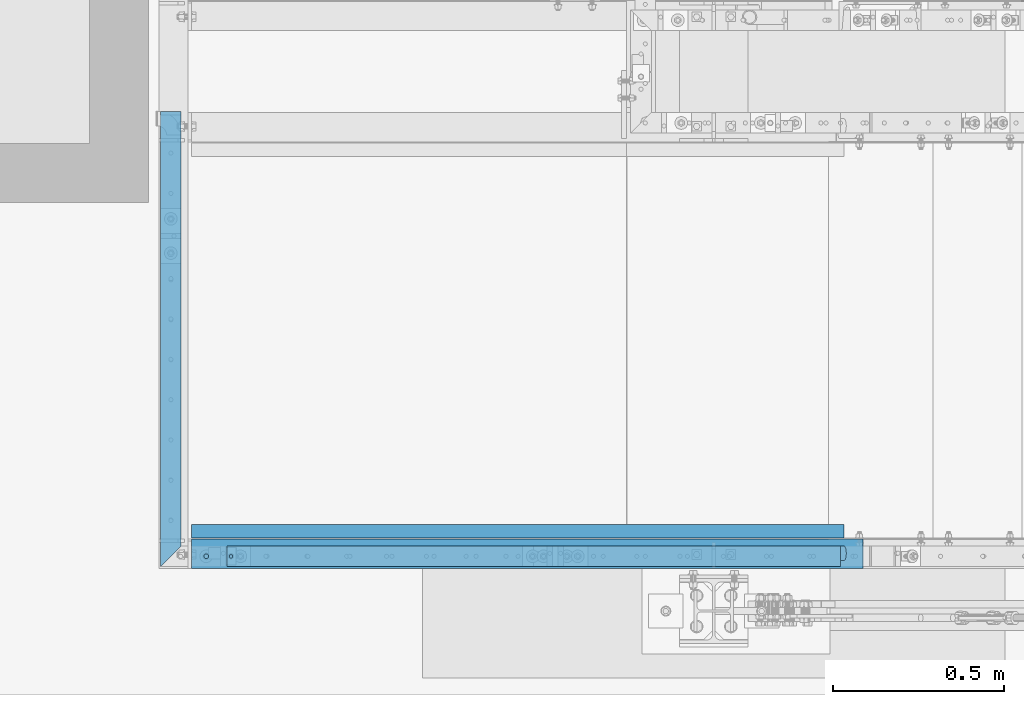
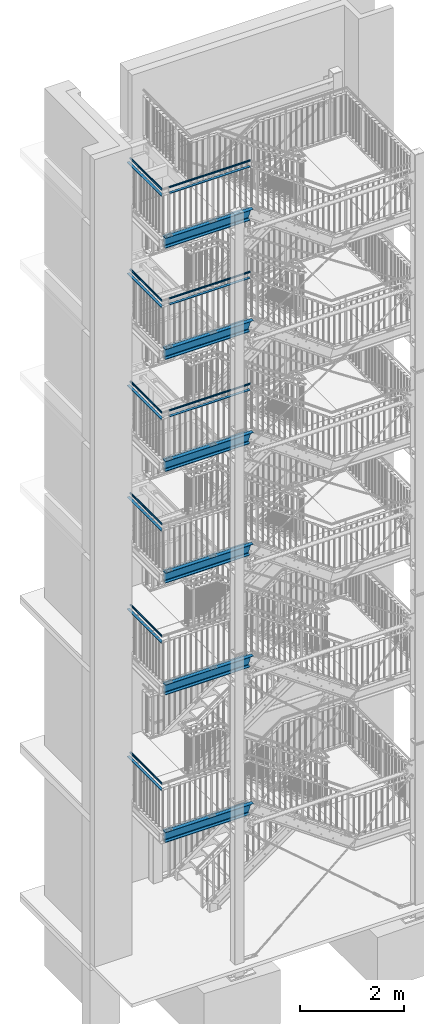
# One storey, part 112 of 821: 30 beams, 39 openings.
"""IFC2X3 building model written with IfcOpenShell, lengths in millimetres."""

from ifc_helpers import new_model, entity, si_unit, converted_unit, frame, frame_2d, origin, origin_with_axes, origin_2d, origin_2d_with_axis, place, context, project, spatial, rectangle, circle, hollow_circle, l_section, u_section, extrude, clip, halfspace, material, element, save


model = new_model("IFC2X3")

# Units and contexts
model_context = context("Model", 3, precision=1e-09, world=origin_with_axes())
ifc_project = project(units=[si_unit("LENGTHUNIT", "METRE", prefix="MILLI"), si_unit("AREAUNIT", "SQUARE_METRE"), si_unit("VOLUMEUNIT", "CUBIC_METRE"), converted_unit("PLANEANGLEUNIT", "DEGREE", entity("IfcPlaneAngleMeasure", 0.01745329), si_unit("PLANEANGLEUNIT", "RADIAN"), dimensions=[0, 0, 0, 0, 0, 0, 0])], contexts=[model_context])

# Site, building, storey
site_placement = place(None, origin_with_axes())
site = spatial("IfcSite", under=ifc_project, at=site_placement, Name="Cnopf'sche Kinderklinik", CompositionType="ELEMENT")
building_placement = place(site_placement, origin_with_axes())
building = spatial("IfcBuilding", under=site, at=building_placement, Name="Struktur 1", CompositionType="ELEMENT")
storey_placement = place(building_placement, origin_with_axes())
storey = spatial("IfcBuildingStorey", under=building, at=storey_placement, Name="Default Storey", CompositionType="ELEMENT", Elevation=0.0)

# Beam
ifc_material = material(Name="S235JR")
beam_1_placement = place(None, frame((5236.713402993, 4590.936971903, 12567.8), z_axis=(1.0, 0.0, 0.0), x_axis=(0.0, 0.0, -1.0)))
element("IfcBeam", 1, at=beam_1_placement, inside=storey, material=ifc_material, Name="TopLanding#3", ObjectType="TopLanding#3", context=model_context, shape_type="SweptSolid", body=[
    extrude(l_section(Depth=40.0, Width=40.0, Thickness=4.0, FilletRadius=6.0, EdgeRadius=3.0, at=frame_2d((8.8, 8.8))), origin(), (0.0, 0.0, -1.0), 1905.0),
])

# Beam, openings
beam_2_placement = place(None, frame((5552.034700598, 4554.436971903, 12459.0), z_axis=(-1.0, 0.0, 0.0), x_axis=(0.0, -1.0, 0.0)))
beam_2 = element("IfcBeam", 2, at=beam_2_placement, inside=storey, material=ifc_material, Name="Stringer", ObjectType="Stringer", context=model_context, shape_type="Clipping", body=[
    clip(clip(extrude(u_section(Depth=240.0, FlangeWidth=85.0, WebThickness=9.5, FlangeThickness=13.0, FilletRadius=13.0, EdgeRadius=6.5, FlangeSlope=4.574, at=frame_2d((20.2, 0.0))), origin(), (0.0, 0.0, 1.0), 2477.62506817), halfspace(frame((4554.436971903, -12459.0, 2220.320297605), z_axis=(0.0, 0.0, -1.0), x_axis=(-1.0, 0.0, 0.0)), True)), halfspace(frame((4554.436971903, -12818.039088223, 4441.028582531), z_axis=(0.0, 0.307506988, 0.951545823), x_axis=(1.0, 0.0, 0.0)), True)),
])
opening_1_placement = place(beam_2_placement, frame((27.7, 120.5, 2170.242154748), z_axis=(0.0, 1.0, 0.0), x_axis=(-1.0, 0.0, 0.0)))
element("IfcOpeningElement", 3, at=opening_1_placement, cuts=beam_2, ObjectType="Opening", context=model_context, shape_type="SweptSolid", body=[
    extrude(circle(Radius=7.001, at=frame_2d((0.0, 7.001), x_axis=(1.0, 0.0))), origin(), (0.0, 0.0, -1.0), 14.0),
])
opening_2_placement = place(beam_2_placement, frame((27.7, 120.5, 2070.242154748), z_axis=(0.0, 1.0, 0.0), x_axis=(-1.0, 0.0, 0.0)))
element("IfcOpeningElement", 4, at=opening_2_placement, cuts=beam_2, ObjectType="Opening", context=model_context, shape_type="SweptSolid", body=[
    extrude(circle(Radius=7.001, at=frame_2d((0.0, 7.001), x_axis=(1.0, 0.0))), origin(), (0.0, 0.0, -1.0), 14.0),
])
opening_3_placement = place(beam_2_placement, frame((27.7, 120.5, 1185.242011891), z_axis=(0.0, 1.0, 0.0), x_axis=(-1.0, 0.0, 0.0)))
element("IfcOpeningElement", 5, at=opening_3_placement, cuts=beam_2, ObjectType="Opening", context=model_context, shape_type="SweptSolid", body=[
    extrude(circle(Radius=7.001, at=frame_2d((0.0, 7.001), x_axis=(1.0, 0.0))), origin(), (0.0, 0.0, -1.0), 14.0),
])
opening_4_placement = place(beam_2_placement, frame((27.7, 120.5, 1085.242011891), z_axis=(0.0, 1.0, 0.0), x_axis=(-1.0, 0.0, 0.0)))
element("IfcOpeningElement", 6, at=opening_4_placement, cuts=beam_2, ObjectType="Opening", context=model_context, shape_type="SweptSolid", body=[
    extrude(circle(Radius=7.001, at=frame_2d((0.0, 7.001), x_axis=(1.0, 0.0))), origin(), (0.0, 0.0, -1.0), 14.0),
])
opening_5_placement = place(beam_2_placement, frame((29.701, -120.5, 645.321297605), z_axis=(0.0, -1.0, 0.0), x_axis=(1.0, 0.0, 0.0)))
element("IfcOpeningElement", 7, at=opening_5_placement, cuts=beam_2, ObjectType="Opening", context=model_context, shape_type="SweptSolid", body=[
    extrude(circle(Radius=7.001, at=frame_2d((-7.001, 0.0), x_axis=(1.0, 0.0))), origin(), (0.0, 0.0, -1.0), 14.0),
])
opening_6_placement = place(beam_2_placement, frame((29.701, -120.5, 745.321297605), z_axis=(0.0, -1.0, 0.0), x_axis=(1.0, 0.0, 0.0)))
element("IfcOpeningElement", 8, at=opening_6_placement, cuts=beam_2, ObjectType="Opening", context=model_context, shape_type="SweptSolid", body=[
    extrude(circle(Radius=7.001, at=frame_2d((-7.001, 0.0), x_axis=(1.0, 0.0))), origin(), (0.0, 0.0, -1.0), 14.0),
])

beam_3_placement = place(None, frame((5551.927134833, 4554.436971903, 15094.0), z_axis=(-1.0, 0.0, 0.0), x_axis=(0.0, -1.0, 0.0)))
beam_3 = element("IfcBeam", 9, at=beam_3_placement, inside=storey, material=ifc_material, Name="Stringer", ObjectType="Stringer", context=model_context, shape_type="Clipping", body=[
    clip(clip(extrude(u_section(Depth=240.0, FlangeWidth=85.0, WebThickness=9.5, FlangeThickness=13.0, FilletRadius=13.0, EdgeRadius=6.5, FlangeSlope=4.574, at=frame_2d((20.2, 0.0))), origin(), (0.0, 0.0, 1.0), 2477.517502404), halfspace(frame((4554.436971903, -15094.0, 2220.21273184), z_axis=(0.0, 0.0, -1.0), x_axis=(-1.0, 0.0, 0.0)), True)), halfspace(frame((4554.436971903, -15200.485604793, 5223.230411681), z_axis=(0.0, 0.308193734, 0.951323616), x_axis=(1.0, 0.0, 0.0)), True)),
])
opening_7_placement = place(beam_3_placement, frame((27.7, 120.5, 2170.134588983), z_axis=(0.0, 1.0, 0.0), x_axis=(-1.0, 0.0, 0.0)))
element("IfcOpeningElement", 10, at=opening_7_placement, cuts=beam_3, ObjectType="Opening", context=model_context, shape_type="SweptSolid", body=[
    extrude(circle(Radius=7.001, at=frame_2d((0.0, 7.001), x_axis=(1.0, 0.0))), origin(), (0.0, 0.0, -1.0), 14.0),
])
opening_8_placement = place(beam_3_placement, frame((27.7, 120.5, 2070.134588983), z_axis=(0.0, 1.0, 0.0), x_axis=(-1.0, 0.0, 0.0)))
element("IfcOpeningElement", 11, at=opening_8_placement, cuts=beam_3, ObjectType="Opening", context=model_context, shape_type="SweptSolid", body=[
    extrude(circle(Radius=7.001, at=frame_2d((0.0, 7.001), x_axis=(1.0, 0.0))), origin(), (0.0, 0.0, -1.0), 14.0),
])
opening_9_placement = place(beam_3_placement, frame((27.7, 120.5, 1185.134446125), z_axis=(0.0, 1.0, 0.0), x_axis=(-1.0, 0.0, 0.0)))
element("IfcOpeningElement", 12, at=opening_9_placement, cuts=beam_3, ObjectType="Opening", context=model_context, shape_type="SweptSolid", body=[
    extrude(circle(Radius=7.001, at=frame_2d((0.0, 7.001), x_axis=(1.0, 0.0))), origin(), (0.0, 0.0, -1.0), 14.0),
])
opening_10_placement = place(beam_3_placement, frame((27.7, 120.5, 1085.134446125), z_axis=(0.0, 1.0, 0.0), x_axis=(-1.0, 0.0, 0.0)))
element("IfcOpeningElement", 13, at=opening_10_placement, cuts=beam_3, ObjectType="Opening", context=model_context, shape_type="SweptSolid", body=[
    extrude(circle(Radius=7.001, at=frame_2d((0.0, 7.001), x_axis=(1.0, 0.0))), origin(), (0.0, 0.0, -1.0), 14.0),
])
opening_11_placement = place(beam_3_placement, frame((29.701, -120.5, 645.21373184), z_axis=(0.0, -1.0, 0.0), x_axis=(1.0, 0.0, 0.0)))
element("IfcOpeningElement", 14, at=opening_11_placement, cuts=beam_3, ObjectType="Opening", context=model_context, shape_type="SweptSolid", body=[
    extrude(circle(Radius=7.001, at=frame_2d((-7.001, 0.0), x_axis=(1.0, 0.0))), origin(), (0.0, 0.0, -1.0), 14.0),
])
opening_12_placement = place(beam_3_placement, frame((29.701, -120.5, 745.21373184), z_axis=(0.0, -1.0, 0.0), x_axis=(1.0, 0.0, 0.0)))
element("IfcOpeningElement", 15, at=opening_12_placement, cuts=beam_3, ObjectType="Opening", context=model_context, shape_type="SweptSolid", body=[
    extrude(circle(Radius=7.001, at=frame_2d((-7.001, 0.0), x_axis=(1.0, 0.0))), origin(), (0.0, 0.0, -1.0), 14.0),
])

# Beam
beam_4_placement = place(None, frame((5236.713402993, 4590.936971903, 15202.8), z_axis=(1.0, 0.0, 0.0), x_axis=(0.0, 0.0, -1.0)))
element("IfcBeam", 16, at=beam_4_placement, inside=storey, material=ifc_material, Name="TopLanding#3", ObjectType="TopLanding#3", context=model_context, shape_type="SweptSolid", body=[
    extrude(l_section(Depth=40.0, Width=40.0, Thickness=4.0, FilletRadius=6.0, EdgeRadius=3.0, at=frame_2d((8.8, 8.8))), origin(), (0.0, 0.0, -1.0), 1905.0),
])

# Beam, openings
beam_5_placement = place(None, frame((5552.129694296, 4554.436971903, 17713.999999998), z_axis=(-1.0, 0.0, 0.0), x_axis=(0.0, -1.0, 0.0)))
beam_5 = element("IfcBeam", 17, at=beam_5_placement, inside=storey, material=ifc_material, Name="Stringer", ObjectType="Stringer", context=model_context, shape_type="Clipping", body=[
    clip(clip(extrude(u_section(Depth=240.0, FlangeWidth=85.0, WebThickness=9.5, FlangeThickness=13.0, FilletRadius=13.0, EdgeRadius=6.5, FlangeSlope=4.574, at=frame_2d((20.2, 0.0))), origin(), (0.0, 0.0, 1.0), 2477.720061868), halfspace(frame((4554.436971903, -17713.999999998, 2220.415291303), z_axis=(0.0, 0.0, -1.0), x_axis=(-1.0, 0.0, 0.0)), True)), halfspace(frame((4554.436971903, -17580.048532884, 5967.525639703), z_axis=(0.0, 0.306904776, 0.951740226), x_axis=(1.0, 0.0, 0.0)), True)),
])
opening_13_placement = place(beam_5_placement, frame((27.7, 120.5, 2170.337148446), z_axis=(0.0, 1.0, 0.0), x_axis=(-1.0, 0.0, 0.0)))
element("IfcOpeningElement", 18, at=opening_13_placement, cuts=beam_5, ObjectType="Opening", context=model_context, shape_type="SweptSolid", body=[
    extrude(circle(Radius=7.001, at=frame_2d((0.0, 7.001), x_axis=(1.0, 0.0))), origin(), (0.0, 0.0, -1.0), 14.0),
])
opening_14_placement = place(beam_5_placement, frame((27.7, 120.5, 2070.337148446), z_axis=(0.0, 1.0, 0.0), x_axis=(-1.0, 0.0, 0.0)))
element("IfcOpeningElement", 19, at=opening_14_placement, cuts=beam_5, ObjectType="Opening", context=model_context, shape_type="SweptSolid", body=[
    extrude(circle(Radius=7.001, at=frame_2d((0.0, 7.001), x_axis=(1.0, 0.0))), origin(), (0.0, 0.0, -1.0), 14.0),
])
opening_15_placement = place(beam_5_placement, frame((27.7, 120.5, 1185.337005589), z_axis=(0.0, 1.0, 0.0), x_axis=(-1.0, 0.0, 0.0)))
element("IfcOpeningElement", 20, at=opening_15_placement, cuts=beam_5, ObjectType="Opening", context=model_context, shape_type="SweptSolid", body=[
    extrude(circle(Radius=7.001, at=frame_2d((0.0, 7.001), x_axis=(1.0, 0.0))), origin(), (0.0, 0.0, -1.0), 14.0),
])
opening_16_placement = place(beam_5_placement, frame((27.7, 120.5, 1085.337005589), z_axis=(0.0, 1.0, 0.0), x_axis=(-1.0, 0.0, 0.0)))
element("IfcOpeningElement", 21, at=opening_16_placement, cuts=beam_5, ObjectType="Opening", context=model_context, shape_type="SweptSolid", body=[
    extrude(circle(Radius=7.001, at=frame_2d((0.0, 7.001), x_axis=(1.0, 0.0))), origin(), (0.0, 0.0, -1.0), 14.0),
])
opening_17_placement = place(beam_5_placement, frame((29.701, -120.5, 745.416291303), z_axis=(0.0, -1.0, 0.0), x_axis=(1.0, 0.0, 0.0)))
element("IfcOpeningElement", 22, at=opening_17_placement, cuts=beam_5, ObjectType="Opening", context=model_context, shape_type="SweptSolid", body=[
    extrude(circle(Radius=7.001, at=frame_2d((-7.001, 0.0), x_axis=(1.0, 0.0))), origin(), (0.0, 0.0, -1.0), 14.0),
])
opening_18_placement = place(beam_5_placement, frame((29.701, -120.5, 645.416291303), z_axis=(0.0, -1.0, 0.0), x_axis=(1.0, 0.0, 0.0)))
element("IfcOpeningElement", 23, at=opening_18_placement, cuts=beam_5, ObjectType="Opening", context=model_context, shape_type="SweptSolid", body=[
    extrude(circle(Radius=7.001, at=frame_2d((-7.001, 0.0), x_axis=(1.0, 0.0))), origin(), (0.0, 0.0, -1.0), 14.0),
])

# Beam
beam_6_placement = place(None, frame((5236.713402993, 4590.936971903, 17822.799999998), z_axis=(1.0, 0.0, 0.0), x_axis=(0.0, 0.0, -1.0)))
element("IfcBeam", 24, at=beam_6_placement, inside=storey, material=ifc_material, Name="TopLanding#3", ObjectType="TopLanding#3", context=model_context, shape_type="SweptSolid", body=[
    extrude(l_section(Depth=40.0, Width=40.0, Thickness=4.0, FilletRadius=6.0, EdgeRadius=3.0, at=frame_2d((8.8, 8.8))), origin(), (0.0, 0.0, -1.0), 1905.0),
])

# Beam, openings
beam_7_placement = place(None, frame((5551.967347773, 4554.436971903, 9832.0), z_axis=(-1.0, 0.0, 0.0), x_axis=(0.0, -1.0, 0.0)))
beam_7 = element("IfcBeam", 25, at=beam_7_placement, inside=storey, material=ifc_material, Name="Stringer", ObjectType="Stringer", context=model_context, shape_type="Clipping", body=[
    clip(clip(extrude(u_section(Depth=240.0, FlangeWidth=85.0, WebThickness=9.5, FlangeThickness=13.0, FilletRadius=13.0, EdgeRadius=6.5, FlangeSlope=4.574, at=frame_2d((20.2, 0.0))), origin(), (0.0, 0.0, 1.0), 2477.557715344), halfspace(frame((4554.436971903, -9832.0, 2220.25294478), z_axis=(0.0, 0.0, -1.0), x_axis=(-1.0, 0.0, 0.0)), True)), halfspace(frame((4554.436971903, -10438.724783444, 3677.417308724), z_axis=(0.0, 0.307936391, 0.951406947), x_axis=(1.0, 0.0, 0.0)), True)),
])
opening_19_placement = place(beam_7_placement, frame((27.7, 120.5, 2170.174801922), z_axis=(0.0, 1.0, 0.0), x_axis=(-1.0, 0.0, 0.0)))
element("IfcOpeningElement", 26, at=opening_19_placement, cuts=beam_7, ObjectType="Opening", context=model_context, shape_type="SweptSolid", body=[
    extrude(circle(Radius=7.001, at=frame_2d((0.0, 7.001), x_axis=(1.0, 0.0))), origin(), (0.0, 0.0, -1.0), 14.0),
])
opening_20_placement = place(beam_7_placement, frame((27.7, 120.5, 2070.174801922), z_axis=(0.0, 1.0, 0.0), x_axis=(-1.0, 0.0, 0.0)))
element("IfcOpeningElement", 27, at=opening_20_placement, cuts=beam_7, ObjectType="Opening", context=model_context, shape_type="SweptSolid", body=[
    extrude(circle(Radius=7.001, at=frame_2d((0.0, 7.001), x_axis=(1.0, 0.0))), origin(), (0.0, 0.0, -1.0), 14.0),
])
opening_21_placement = place(beam_7_placement, frame((27.7, 120.5, 1185.174659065), z_axis=(0.0, 1.0, 0.0), x_axis=(-1.0, 0.0, 0.0)))
element("IfcOpeningElement", 28, at=opening_21_placement, cuts=beam_7, ObjectType="Opening", context=model_context, shape_type="SweptSolid", body=[
    extrude(circle(Radius=7.001, at=frame_2d((0.0, 7.001), x_axis=(1.0, 0.0))), origin(), (0.0, 0.0, -1.0), 14.0),
])
opening_22_placement = place(beam_7_placement, frame((27.7, 120.5, 1085.174659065), z_axis=(0.0, 1.0, 0.0), x_axis=(-1.0, 0.0, 0.0)))
element("IfcOpeningElement", 29, at=opening_22_placement, cuts=beam_7, ObjectType="Opening", context=model_context, shape_type="SweptSolid", body=[
    extrude(circle(Radius=7.001, at=frame_2d((0.0, 7.001), x_axis=(1.0, 0.0))), origin(), (0.0, 0.0, -1.0), 14.0),
])
opening_23_placement = place(beam_7_placement, frame((29.701, -120.5, 745.25394478), z_axis=(0.0, -1.0, 0.0), x_axis=(1.0, 0.0, 0.0)))
element("IfcOpeningElement", 30, at=opening_23_placement, cuts=beam_7, ObjectType="Opening", context=model_context, shape_type="SweptSolid", body=[
    extrude(circle(Radius=7.001, at=frame_2d((-7.001, 0.0), x_axis=(1.0, 0.0))), origin(), (0.0, 0.0, -1.0), 14.0),
])
opening_24_placement = place(beam_7_placement, frame((29.701, -120.5, 645.25394478), z_axis=(0.0, -1.0, 0.0), x_axis=(1.0, 0.0, 0.0)))
element("IfcOpeningElement", 31, at=opening_24_placement, cuts=beam_7, ObjectType="Opening", context=model_context, shape_type="SweptSolid", body=[
    extrude(circle(Radius=7.001, at=frame_2d((-7.001, 0.0), x_axis=(1.0, 0.0))), origin(), (0.0, 0.0, -1.0), 14.0),
])

# Beams
beam_8_placement = place(None, frame((5236.713402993, 4590.936971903, 9940.8), z_axis=(1.0, 0.0, 0.0), x_axis=(0.0, 0.0, -1.0)))
element("IfcBeam", 32, at=beam_8_placement, inside=storey, material=ifc_material, Name="TopLanding#3", ObjectType="TopLanding#3", context=model_context, shape_type="SweptSolid", body=[
    extrude(l_section(Depth=40.0, Width=40.0, Thickness=4.0, FilletRadius=6.0, EdgeRadius=3.0, at=frame_2d((8.8, 8.8))), origin(), (0.0, 0.0, -1.0), 1905.0),
])
beam_9_placement = place(None, frame((3280.513402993, 4493.136971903, 4987.0), z_axis=(0.0, -1.0, 0.0), x_axis=(0.0, 0.0, -1.0)))
element("IfcBeam", 33, at=beam_9_placement, inside=storey, material=ifc_material, Name="Gel?nder", ObjectType="Gel?nder", context=model_context, shape_type="Clipping", body=[
    clip(extrude(hollow_circle(Radius=21.2, WallThickness=3.2, at=origin_2d()), origin(), (0.0, 0.0, -1.0), 1263.24632653), halfspace(frame((4987.0, -3908.025894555, 3865.624480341), z_axis=(0.0, -0.707106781, -0.707106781), x_axis=(0.0, -0.707106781, 0.707106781)), True)),
])
beam_10_placement = place(None, frame((3280.513402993, 4493.136971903, 8460.0), z_axis=(0.0, -1.0, 0.0), x_axis=(0.0, 0.0, -1.0)))
element("IfcBeam", 34, at=beam_10_placement, inside=storey, material=ifc_material, Name="Gel?nder", ObjectType="Gel?nder", context=model_context, shape_type="Clipping", body=[
    clip(extrude(hollow_circle(Radius=21.2, WallThickness=3.2, at=origin_2d()), origin(), (0.0, 0.0, -1.0), 1263.24632653), halfspace(frame((8460.0, -3908.025894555, 3865.624480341), z_axis=(0.0, -0.707106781, -0.707106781), x_axis=(0.0, -0.707106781, 0.707106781)), True)),
])
beam_11_placement = place(None, frame((3280.513402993, 4493.136971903, 11092.0), z_axis=(0.0, -1.0, 0.0), x_axis=(0.0, 0.0, -1.0)))
element("IfcBeam", 35, at=beam_11_placement, inside=storey, material=ifc_material, Name="Gel?nder", ObjectType="Gel?nder", context=model_context, shape_type="Clipping", body=[
    clip(extrude(hollow_circle(Radius=21.2, WallThickness=3.2, at=origin_2d()), origin(), (0.0, 0.0, -1.0), 1263.24632653), halfspace(frame((11092.0, -3908.025894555, 3865.624480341), z_axis=(0.0, -0.707106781, -0.707106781), x_axis=(0.0, -0.707106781, 0.707106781)), True)),
])
beam_12_placement = place(None, frame((3280.513402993, 4493.136971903, 13719.0), z_axis=(0.0, -1.0, 0.0), x_axis=(0.0, 0.0, -1.0)))
element("IfcBeam", 36, at=beam_12_placement, inside=storey, material=ifc_material, Name="Gel?nder", ObjectType="Gel?nder", context=model_context, shape_type="Clipping", body=[
    clip(extrude(hollow_circle(Radius=21.2, WallThickness=3.2, at=origin_2d()), origin(), (0.0, 0.0, -1.0), 1263.24632653), halfspace(frame((13719.0, -3908.025894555, 3865.624480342), z_axis=(0.0, -0.707106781, -0.707106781), x_axis=(0.0, -0.707106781, 0.707106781)), True)),
])
beam_13_placement = place(None, frame((3280.513402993, 4493.136971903, 16354.0), z_axis=(0.0, -1.0, 0.0), x_axis=(0.0, 0.0, -1.0)))
element("IfcBeam", 37, at=beam_13_placement, inside=storey, material=ifc_material, Name="Gel?nder", ObjectType="Gel?nder", context=model_context, shape_type="Clipping", body=[
    clip(extrude(hollow_circle(Radius=21.2, WallThickness=3.2, at=origin_2d()), origin(), (0.0, 0.0, -1.0), 1263.24632653), halfspace(frame((16354.0, -3908.025894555, 3865.624480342), z_axis=(0.0, -0.707106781, -0.707106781), x_axis=(0.0, -0.707106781, 0.707106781)), True)),
])
beam_14_placement = place(None, frame((3280.513402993, 4493.136971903, 18974.0), z_axis=(0.0, -1.0, 0.0), x_axis=(0.0, 0.0, -1.0)))
element("IfcBeam", 38, at=beam_14_placement, inside=storey, material=ifc_material, Name="Gel?nder", ObjectType="Gel?nder", context=model_context, shape_type="Clipping", body=[
    clip(extrude(hollow_circle(Radius=21.2, WallThickness=3.2, at=origin_2d()), origin(), (0.0, 0.0, -1.0), 1263.24632653), halfspace(frame((18973.999999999, -3908.025894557, 3865.624480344), z_axis=(0.0, -0.707106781, -0.707106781), x_axis=(0.0, -0.707106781, 0.707106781)), True)),
])

# Beam, openings
beam_15_placement = place(None, frame((5552.525390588, 4554.436971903, 3727.0), z_axis=(-1.0, 0.0, 0.0), x_axis=(0.0, -1.0, 0.0)))
beam_15 = element("IfcBeam", 39, at=beam_15_placement, inside=storey, material=ifc_material, Name="Stringer", ObjectType="Stringer", context=model_context, shape_type="Clipping", body=[
    clip(clip(extrude(u_section(Depth=240.0, FlangeWidth=85.0, WebThickness=9.5, FlangeThickness=13.0, FilletRadius=13.0, EdgeRadius=6.5, FlangeSlope=4.574, at=frame_2d((20.2, 0.0))), origin(), (0.0, 0.0, 1.0), 2478.11575816), halfspace(frame((4554.436971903, -3727.0, 2220.810987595), z_axis=(0.0, 0.0, -1.0), x_axis=(-1.0, 0.0, 0.0)), True)), halfspace(frame((4554.436971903, -4905.321546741, 1865.767544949), z_axis=(0.0, 0.304437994, 0.952532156), x_axis=(1.0, 0.0, 0.0)), True)),
])
opening_25_placement = place(beam_15_placement, frame((27.7, 120.5, 2170.735869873), z_axis=(0.0, 1.0, 0.0), x_axis=(-1.0, 0.0, 0.0)))
element("IfcOpeningElement", 40, at=opening_25_placement, cuts=beam_15, ObjectType="Opening", context=model_context, shape_type="SweptSolid", body=[
    extrude(circle(Radius=7.001, at=frame_2d((0.0, 7.001), x_axis=(1.0, 0.0))), origin(), (0.0, 0.0, -1.0), 14.0),
])
opening_26_placement = place(beam_15_placement, frame((27.7, 120.5, 2070.735869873), z_axis=(0.0, 1.0, 0.0), x_axis=(-1.0, 0.0, 0.0)))
element("IfcOpeningElement", 41, at=opening_26_placement, cuts=beam_15, ObjectType="Opening", context=model_context, shape_type="SweptSolid", body=[
    extrude(circle(Radius=7.001, at=frame_2d((0.0, 7.001), x_axis=(1.0, 0.0))), origin(), (0.0, 0.0, -1.0), 14.0),
])
opening_27_placement = place(beam_15_placement, frame((27.7, 120.5, 1217.65875215), z_axis=(0.0, 1.0, 0.0), x_axis=(-1.0, 0.0, 0.0)))
element("IfcOpeningElement", 42, at=opening_27_placement, cuts=beam_15, ObjectType="Opening", context=model_context, shape_type="SweptSolid", body=[
    extrude(circle(Radius=7.001, at=frame_2d((0.0, 7.001), x_axis=(1.0, 0.0))), origin(), (0.0, 0.0, -1.0), 14.0),
])
opening_28_placement = place(beam_15_placement, frame((27.7, 120.5, 1117.65875215), z_axis=(0.0, 1.0, 0.0), x_axis=(-1.0, 0.0, 0.0)))
element("IfcOpeningElement", 43, at=opening_28_placement, cuts=beam_15, ObjectType="Opening", context=model_context, shape_type="SweptSolid", body=[
    extrude(circle(Radius=7.001, at=frame_2d((0.0, 7.001), x_axis=(1.0, 0.0))), origin(), (0.0, 0.0, -1.0), 14.0),
])
opening_29_placement = place(beam_15_placement, frame((29.701, -120.5, 645.811987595), z_axis=(0.0, -1.0, 0.0), x_axis=(1.0, 0.0, 0.0)))
element("IfcOpeningElement", 44, at=opening_29_placement, cuts=beam_15, ObjectType="Opening", context=model_context, shape_type="SweptSolid", body=[
    extrude(circle(Radius=7.001, at=frame_2d((-7.001, 0.0), x_axis=(1.0, 0.0))), origin(), (0.0, 0.0, -1.0), 14.0),
])
opening_30_placement = place(beam_15_placement, frame((29.701, -120.5, 745.811987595), z_axis=(0.0, -1.0, 0.0), x_axis=(1.0, 0.0, 0.0)))
element("IfcOpeningElement", 45, at=opening_30_placement, cuts=beam_15, ObjectType="Opening", context=model_context, shape_type="SweptSolid", body=[
    extrude(circle(Radius=7.001, at=frame_2d((-7.001, 0.0), x_axis=(1.0, 0.0))), origin(), (0.0, 0.0, -1.0), 14.0),
])

# Beam
beam_16_placement = place(None, frame((5236.713402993, 4590.936971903, 3835.8), z_axis=(1.0, 0.0, 0.0), x_axis=(0.0, 0.0, -1.0)))
element("IfcBeam", 46, at=beam_16_placement, inside=storey, material=ifc_material, Name="TopLanding#3", ObjectType="TopLanding#3", context=model_context, shape_type="SweptSolid", body=[
    extrude(l_section(Depth=40.0, Width=40.0, Thickness=4.0, FilletRadius=6.0, EdgeRadius=3.0, at=frame_2d((8.8, 8.8))), origin(), (0.0, 0.0, -1.0), 1905.0),
])

# Beam, openings
beam_17_placement = place(None, frame((5552.992298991, 4554.436971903, 7200.0), z_axis=(-1.0, 0.0, 0.0), x_axis=(0.0, -1.0, 0.0)))
beam_17 = element("IfcBeam", 47, at=beam_17_placement, inside=storey, material=ifc_material, Name="Stringer", ObjectType="Stringer", context=model_context, shape_type="Clipping", body=[
    clip(clip(extrude(u_section(Depth=240.0, FlangeWidth=85.0, WebThickness=9.5, FlangeThickness=13.0, FilletRadius=13.0, EdgeRadius=6.5, FlangeSlope=4.574, at=frame_2d((20.2, 0.0))), origin(), (0.0, 0.0, 1.0), 2478.582666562), halfspace(frame((4554.436971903, -7200.0, 2221.277895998), z_axis=(0.0, 0.0, -1.0), x_axis=(-1.0, 0.0, 0.0)), True)), halfspace(frame((4554.436971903, -8056.363400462, 2845.904323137), z_axis=(0.0, 0.301609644, 0.953431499), x_axis=(1.0, 0.0, 0.0)), True)),
])
opening_31_placement = place(beam_17_placement, frame((27.7, 120.5, 2171.19975314), z_axis=(0.0, 1.0, 0.0), x_axis=(-1.0, 0.0, 0.0)))
element("IfcOpeningElement", 48, at=opening_31_placement, cuts=beam_17, ObjectType="Opening", context=model_context, shape_type="SweptSolid", body=[
    extrude(circle(Radius=7.001, at=frame_2d((0.0, 7.001), x_axis=(1.0, 0.0))), origin(), (0.0, 0.0, -1.0), 14.0),
])
opening_32_placement = place(beam_17_placement, frame((27.7, 120.5, 2071.19975314), z_axis=(0.0, 1.0, 0.0), x_axis=(-1.0, 0.0, 0.0)))
element("IfcOpeningElement", 49, at=opening_32_placement, cuts=beam_17, ObjectType="Opening", context=model_context, shape_type="SweptSolid", body=[
    extrude(circle(Radius=7.001, at=frame_2d((0.0, 7.001), x_axis=(1.0, 0.0))), origin(), (0.0, 0.0, -1.0), 14.0),
])
opening_33_placement = place(beam_17_placement, frame((27.7, 120.5, 1186.199610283), z_axis=(0.0, 1.0, 0.0), x_axis=(-1.0, 0.0, 0.0)))
element("IfcOpeningElement", 50, at=opening_33_placement, cuts=beam_17, ObjectType="Opening", context=model_context, shape_type="SweptSolid", body=[
    extrude(circle(Radius=7.001, at=frame_2d((0.0, 7.001), x_axis=(1.0, 0.0))), origin(), (0.0, 0.0, -1.0), 14.0),
])
opening_34_placement = place(beam_17_placement, frame((27.7, 120.5, 1086.199610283), z_axis=(0.0, 1.0, 0.0), x_axis=(-1.0, 0.0, 0.0)))
element("IfcOpeningElement", 51, at=opening_34_placement, cuts=beam_17, ObjectType="Opening", context=model_context, shape_type="SweptSolid", body=[
    extrude(circle(Radius=7.001, at=frame_2d((0.0, 7.001), x_axis=(1.0, 0.0))), origin(), (0.0, 0.0, -1.0), 14.0),
])
opening_35_placement = place(beam_17_placement, frame((29.701, -120.5, 646.278895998), z_axis=(0.0, -1.0, 0.0), x_axis=(1.0, 0.0, 0.0)))
element("IfcOpeningElement", 52, at=opening_35_placement, cuts=beam_17, ObjectType="Opening", context=model_context, shape_type="SweptSolid", body=[
    extrude(circle(Radius=7.001, at=frame_2d((-7.001, 0.0), x_axis=(1.0, 0.0))), origin(), (0.0, 0.0, -1.0), 14.0),
])
opening_36_placement = place(beam_17_placement, frame((29.701, -120.5, 746.278895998), z_axis=(0.0, -1.0, 0.0), x_axis=(1.0, 0.0, 0.0)))
element("IfcOpeningElement", 53, at=opening_36_placement, cuts=beam_17, ObjectType="Opening", context=model_context, shape_type="SweptSolid", body=[
    extrude(circle(Radius=7.001, at=frame_2d((-7.001, 0.0), x_axis=(1.0, 0.0))), origin(), (0.0, 0.0, -1.0), 14.0),
])

# Beams
beam_18_placement = place(None, frame((3271.713402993, 4483.725345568, 4860.8), z_axis=(0.0, -1.0, 0.0), x_axis=(0.0, 0.0, -1.0)))
element("IfcBeam", 54, at=beam_18_placement, inside=storey, material=ifc_material, Name="Railing_Kneerail_Landing#1019", ObjectType="Railing_Kneerail_Landing#1019", context=model_context, shape_type="Clipping", body=[
    clip(extrude(rectangle(XDim=10.0, YDim=60.0, at=origin_2d()), origin(), (0.0, 0.0, -1.0), 1341.857952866), halfspace(frame((4860.8, -3899.225894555, 3856.212854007), z_axis=(0.0, -0.707106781, -0.707106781), x_axis=(0.0, -0.707106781, 0.707106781)), True)),
])
beam_19_placement = place(None, frame((3271.713402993, 4483.725345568, 8333.8), z_axis=(0.0, -1.0, 0.0), x_axis=(0.0, 0.0, -1.0)))
element("IfcBeam", 55, at=beam_19_placement, inside=storey, material=ifc_material, Name="Railing_Kneerail_Landing#1021", ObjectType="Railing_Kneerail_Landing#1021", context=model_context, shape_type="Clipping", body=[
    clip(extrude(rectangle(XDim=10.0, YDim=60.0, at=origin_2d()), origin(), (0.0, 0.0, -1.0), 1341.857952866), halfspace(frame((8333.8, -3899.225894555, 3856.212854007), z_axis=(0.0, -0.707106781, -0.707106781), x_axis=(0.0, -0.707106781, 0.707106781)), True)),
])
beam_20_placement = place(None, frame((3271.713402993, 4483.725345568, 10965.8), z_axis=(0.0, -1.0, 0.0), x_axis=(0.0, 0.0, -1.0)))
element("IfcBeam", 56, at=beam_20_placement, inside=storey, material=ifc_material, Name="Railing_Kneerail_Landing#1021", ObjectType="Railing_Kneerail_Landing#1021", context=model_context, shape_type="Clipping", body=[
    clip(extrude(rectangle(XDim=10.0, YDim=60.0, at=origin_2d()), origin(), (0.0, 0.0, -1.0), 1341.857952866), halfspace(frame((10965.8, -3899.225894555, 3856.212854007), z_axis=(0.0, -0.707106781, -0.707106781), x_axis=(0.0, -0.707106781, 0.707106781)), True)),
])
beam_21_placement = place(None, frame((3271.713402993, 4483.725345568, 13592.8), z_axis=(0.0, -1.0, 0.0), x_axis=(0.0, 0.0, -1.0)))
element("IfcBeam", 57, at=beam_21_placement, inside=storey, material=ifc_material, Name="Railing_Kneerail_Landing#1021", ObjectType="Railing_Kneerail_Landing#1021", context=model_context, shape_type="Clipping", body=[
    clip(extrude(rectangle(XDim=10.0, YDim=60.0, at=origin_2d()), origin(), (0.0, 0.0, -1.0), 1341.857952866), halfspace(frame((13592.8, -3899.225894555, 3856.212854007), z_axis=(0.0, -0.707106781, -0.707106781), x_axis=(0.0, -0.707106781, 0.707106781)), True)),
])
beam_22_placement = place(None, frame((3271.713402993, 4483.725345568, 16227.8), z_axis=(0.0, -1.0, 0.0), x_axis=(0.0, 0.0, -1.0)))
element("IfcBeam", 58, at=beam_22_placement, inside=storey, material=ifc_material, Name="Railing_Kneerail_Landing#1021", ObjectType="Railing_Kneerail_Landing#1021", context=model_context, shape_type="Clipping", body=[
    clip(extrude(rectangle(XDim=10.0, YDim=60.0, at=origin_2d()), origin(), (0.0, 0.0, -1.0), 1341.857952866), halfspace(frame((16227.8, -3899.225894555, 3856.212854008), z_axis=(0.0, -0.707106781, -0.707106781), x_axis=(0.0, -0.707106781, 0.707106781)), True)),
])
beam_23_placement = place(None, frame((3271.713402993, 4483.725345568, 18847.8), z_axis=(0.0, -1.0, 0.0), x_axis=(0.0, 0.0, -1.0)))
element("IfcBeam", 59, at=beam_23_placement, inside=storey, material=ifc_material, Name="Railing_Kneerail_Landing#1021", ObjectType="Railing_Kneerail_Landing#1021", context=model_context, shape_type="Clipping", body=[
    clip(extrude(rectangle(XDim=10.0, YDim=60.0, at=origin_2d()), origin(), (0.0, 0.0, -1.0), 1341.857952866), halfspace(frame((18847.799999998, -3899.225894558, 3856.212854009), z_axis=(0.0, -0.707106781, -0.707106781), x_axis=(0.0, -0.707106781, 0.707106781)), True)),
])
beam_24_placement = place(None, frame((5236.713402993, 4590.936971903, 7308.8), z_axis=(1.0, 0.0, 0.0), x_axis=(0.0, 0.0, -1.0)))
element("IfcBeam", 60, at=beam_24_placement, inside=storey, material=ifc_material, Name="TopLanding#3", ObjectType="TopLanding#3", context=model_context, shape_type="SweptSolid", body=[
    extrude(l_section(Depth=40.0, Width=40.0, Thickness=4.0, FilletRadius=6.0, EdgeRadius=3.0, at=frame_2d((8.8, 8.8))), origin(), (0.0, 0.0, -1.0), 1905.0),
])

# Beam, opening
beam_25_placement = place(None, frame((5226.652433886, 4526.736971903, 18847.8), z_axis=(1.0, 0.0, 0.0), x_axis=(0.0, 0.0, -1.0)))
beam_25 = element("IfcBeam", 61, at=beam_25_placement, inside=storey, material=ifc_material, Name="Railing_Kneerail_Landing#1018", ObjectType="Railing_Kneerail_Landing#1018", context=model_context, shape_type="SweptSolid", body=[
    extrude(rectangle(XDim=10.0, YDim=60.0, at=origin_2d()), origin(), (0.0, 0.0, -1.0), 1791.360888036),
])
opening_37_placement = place(beam_25_placement, frame((5.5, 0.0, -1779.360888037), z_axis=(-1.0, 0.0, 0.0), x_axis=(0.0, 0.0, 1.0)))
element("IfcOpeningElement", 62, at=opening_37_placement, cuts=beam_25, ObjectType="Opening", context=model_context, shape_type="SweptSolid", body=[
    extrude(circle(Radius=5.001, at=origin_2d_with_axis()), origin(), (0.0, 0.0, 1.0), 11.0),
])

# Beam
beam_26_placement = place(None, frame((5268.214989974, 4535.536971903, 18974.0), z_axis=(1.0, 0.0, 0.0), x_axis=(0.0, 0.0, -1.0)))
element("IfcBeam", 63, at=beam_26_placement, inside=storey, material=ifc_material, Name="Railing_Handrail_Landing#8", ObjectType="Railing_Handrail_Landing#8", context=model_context, shape_type="Clipping", body=[
    clip(extrude(hollow_circle(Radius=21.2, WallThickness=3.2, at=origin_2d()), origin(), (0.0, 0.0, -1.0), 1832.923444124), halfspace(frame((18716.438937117, -4535.536971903, -6066.935776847), z_axis=(-0.306904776, 0.0, -0.951740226), x_axis=(0.0, -1.0, 0.0)), True)),
])

# Beam, opening
beam_27_placement = place(None, frame((5226.60575471, 4526.736971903, 16227.8), z_axis=(1.0, 0.0, 0.0), x_axis=(0.0, 0.0, -1.0)))
beam_27 = element("IfcBeam", 64, at=beam_27_placement, inside=storey, material=ifc_material, Name="Railing_Kneerail_Landing#1020", ObjectType="Railing_Kneerail_Landing#1020", context=model_context, shape_type="SweptSolid", body=[
    extrude(rectangle(XDim=10.0, YDim=60.0, at=origin_2d()), origin(), (0.0, 0.0, -1.0), 1791.314208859),
])
opening_38_placement = place(beam_27_placement, frame((5.5, 0.0, -1779.31420886), z_axis=(-1.0, 0.0, 0.0), x_axis=(0.0, 0.0, 1.0)))
element("IfcOpeningElement", 65, at=opening_38_placement, cuts=beam_27, ObjectType="Opening", context=model_context, shape_type="SweptSolid", body=[
    extrude(circle(Radius=5.001, at=origin_2d_with_axis()), origin(), (0.0, 0.0, 1.0), 11.0),
])

# Beam
beam_28_placement = place(None, frame((5268.228785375, 4535.536971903, 16354.0), z_axis=(1.0, 0.0, 0.0), x_axis=(0.0, 0.0, -1.0)))
element("IfcBeam", 66, at=beam_28_placement, inside=storey, material=ifc_material, Name="Railing_Handrail_Landing#8", ObjectType="Railing_Handrail_Landing#8", context=model_context, shape_type="Clipping", body=[
    clip(extrude(hollow_circle(Radius=21.2, WallThickness=3.2, at=origin_2d()), origin(), (0.0, 0.0, -1.0), 1832.937239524), halfspace(frame((16336.003889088, -4535.536971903, -5323.778666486), z_axis=(-0.308193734, 0.0, -0.951323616), x_axis=(0.0, -1.0, 0.0)), True)),
])

# Beam, opening
beam_29_placement = place(None, frame((5226.630632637, 4526.736971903, 13592.8), z_axis=(1.0, 0.0, 0.0), x_axis=(0.0, 0.0, -1.0)))
beam_29 = element("IfcBeam", 67, at=beam_29_placement, inside=storey, material=ifc_material, Name="Railing_Kneerail_Landing#1018", ObjectType="Railing_Kneerail_Landing#1018", context=model_context, shape_type="SweptSolid", body=[
    extrude(rectangle(XDim=10.0, YDim=60.0, at=origin_2d()), origin(), (0.0, 0.0, -1.0), 1791.339086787),
])
opening_39_placement = place(beam_29_placement, frame((5.5, 0.0, -1779.339086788), z_axis=(-1.0, 0.0, 0.0), x_axis=(0.0, 0.0, 1.0)))
element("IfcOpeningElement", 68, at=opening_39_placement, cuts=beam_29, ObjectType="Opening", context=model_context, shape_type="SweptSolid", body=[
    extrude(circle(Radius=5.001, at=origin_2d_with_axis()), origin(), (0.0, 0.0, 1.0), 11.0),
])

# Beam
beam_30_placement = place(None, frame((5268.221425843, 4535.536971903, 13719.0), z_axis=(1.0, 0.0, 0.0), x_axis=(0.0, 0.0, -1.0)))
element("IfcBeam", 69, at=beam_30_placement, inside=storey, material=ifc_material, Name="Railing_Handrail_Landing#8", ObjectType="Railing_Handrail_Landing#8", context=model_context, shape_type="Clipping", body=[
    clip(extrude(hollow_circle(Radius=21.2, WallThickness=3.2, at=origin_2d()), origin(), (0.0, 0.0, -1.0), 1832.929879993), halfspace(frame((13954.022486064, -4535.536971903, -4540.970749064), z_axis=(-0.307506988, 0.0, -0.951545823), x_axis=(0.0, -1.0, 0.0)), True)),
])

save(model, "model.ifc")
